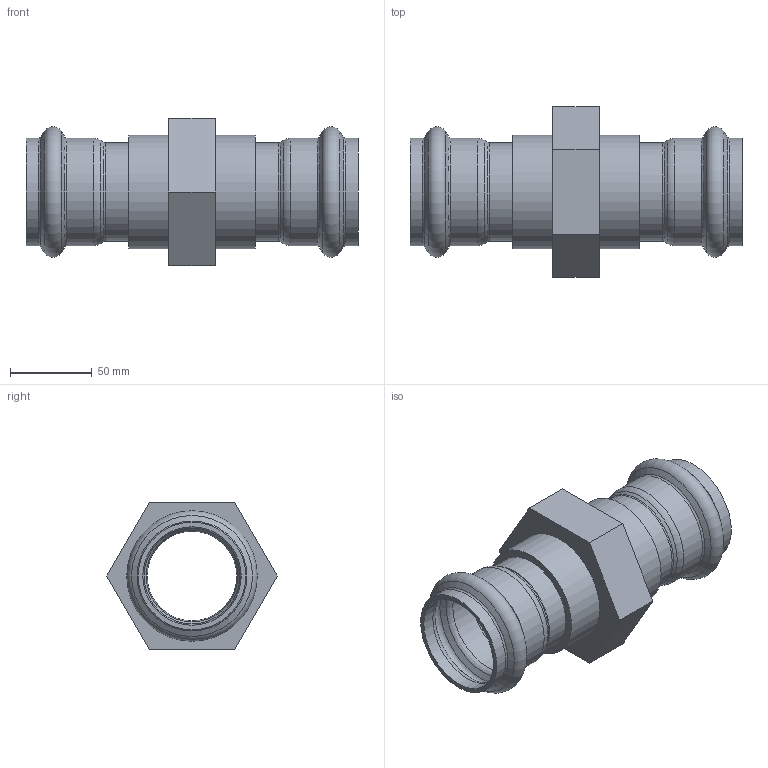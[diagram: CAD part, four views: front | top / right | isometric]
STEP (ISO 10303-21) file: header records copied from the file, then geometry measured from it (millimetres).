
FILE_DESCRIPTION(/* description */ ('VIC THREADED UNION STYLE P585 (P X P)','CAx-IF Rec.Pracs.---Representation and Presentation of Product Manufacturing Information (PMI)---4.0---2014-10-13'),/* implementation_level */ '2;1');
FILE_NAME(/* name */ 'C:\Users\kkamble\AppData\Roaming\Autodesk\ApplicationPlugins\Back Up\Victaulic_SS-Vic-Press-TP 316_Union Threaded_Style P585 (VP)\Victaulic_SS-Vic-Press-TP 316_Union Threaded_Style P585 (VP)_2 (50).stp',/* time_stamp */ '2020-08-14T15:52:54+05:00',/* author */ ('jheald'),/* organization */ ('Victaulic'),/* preprocessor_version */ 'ST-DEVELOPER v17.2',/* originating_system */ 'Autodesk Inventor 2019',/* authorisation */ '');
FILE_SCHEMA (('AP242_MANAGED_MODEL_BASED_3D_ENGINEERING_MIM_LF { 1 0 10303 442 1 1 4 }'));
Length unit declared in the file: inch
Products named in the file (1): P585-02.0
Bounding box: 203.45 x 104.41 x 90.42 mm (x, y, z)
Volume: 285840 mm3; surface area: 99004.7 mm2
Topology: 1 solids, 1 shells, 57 faces, 201 edges, 150 vertices
Faces by surface type: torus 20, cylinder 13, cone 12, plane 12
Full cylindrical faces by diameter (mm): 54.788 x1, 60.325 x6, 65.862 x4, 69.85 x2
Entity records: 2539 total; most frequent: DIRECTION 501, CARTESIAN_POINT 426, ORIENTED_EDGE 402, AXIS2_PLACEMENT_3D 229, EDGE_CURVE 201, CIRCLE 158, VERTEX_POINT 150, EDGE_LOOP 63
